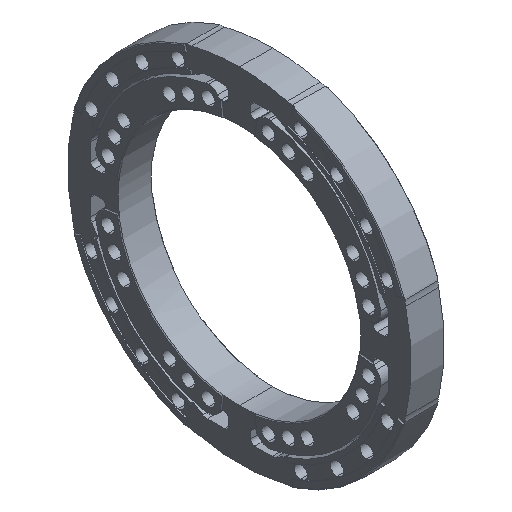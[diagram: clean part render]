
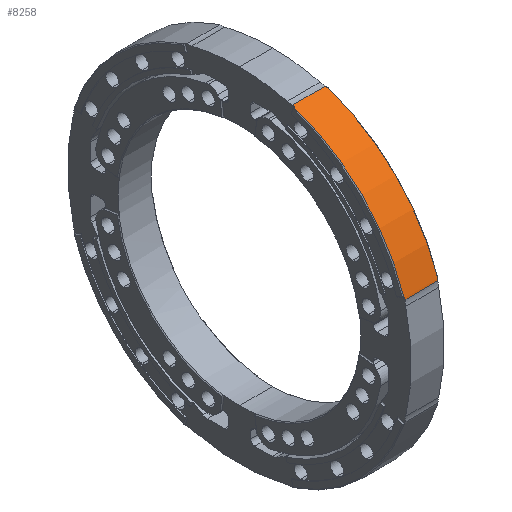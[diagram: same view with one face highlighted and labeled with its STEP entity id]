
A CAD part, isometric view. The second image highlights one B-rep face of the part: STEP entity #8258.
In plain terms, the highlighted cylindrical face has radius 187.325 mm (diameter 374.65 mm), a partial arc.
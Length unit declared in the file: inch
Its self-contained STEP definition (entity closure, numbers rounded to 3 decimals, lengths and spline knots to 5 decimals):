
#307 = CARTESIAN_POINT ( 'NONE',  ( -0.7, -7.00804, 2.2974 ) ) ;
#523 = CARTESIAN_POINT ( 'NONE',  ( 0.7, -7.00804, 2.2974 ) ) ;
#667 = CARTESIAN_POINT ( 'NONE',  ( 0.70164, -7.00415, 2.30922 ) ) ;
#749 = CARTESIAN_POINT ( 'NONE',  ( 0.715, -6.99751, 2.32925 ) ) ;
#903 = CARTESIAN_POINT ( 'NONE',  ( 0.7, -7.0234, 2.25 ) ) ;
#1099 = DIRECTION ( 'NONE',  ( -1., 0., 0. ) ) ;
#1283 = CARTESIAN_POINT ( 'NONE',  ( 0.715, -2.32925, 6.99751 ) ) ;
#1554 = EDGE_CURVE ( 'NONE', #8118, #13894, #6892, .T. ) ;
#1581 = CIRCLE ( 'NONE', #14776, 7.375 ) ;
#2385 = CARTESIAN_POINT ( 'NONE',  ( 0.7, -2.2974, 7.00804 ) ) ;
#2481 = VECTOR ( 'NONE', #1099, 39.37008 ) ;
#2597 = ORIENTED_EDGE ( 'NONE', *, *, #7944, .T. ) ;
#2689 = ORIENTED_EDGE ( 'NONE', *, *, #10921, .T. ) ;
#2785 = EDGE_CURVE ( 'NONE', #11471, #11132, #5587, .T. ) ;
#2928 = DIRECTION ( 'NONE',  ( 1., 0., 0. ) ) ;
#3061 = DIRECTION ( 'NONE',  ( 0., 0., 1. ) ) ;
#3122 = VERTEX_POINT ( 'NONE', #10372 ) ;
#3143 = CARTESIAN_POINT ( 'NONE',  ( 0.025, -7.0234, 2.25 ) ) ;
#3445 = ORIENTED_EDGE ( 'NONE', *, *, #8289, .T. ) ;
#3465 = EDGE_CURVE ( 'NONE', #3122, #8118, #1581, .T. ) ;
#3475 = AXIS2_PLACEMENT_3D ( 'NONE', #12006, #14854, #10658 ) ;
#3751 = CARTESIAN_POINT ( 'NONE',  ( 0., 0., 0. ) ) ;
#3754 = ORIENTED_EDGE ( 'NONE', *, *, #12761, .F. ) ;
#3902 = AXIS2_PLACEMENT_3D ( 'NONE', #12433, #4804, #14378 ) ;
#4221 = CARTESIAN_POINT ( 'NONE',  ( 0.7, -2.2974, 7.00804 ) ) ;
#4395 = CARTESIAN_POINT ( 'NONE',  ( -0.70033, -2.30339, 7.00607 ) ) ;
#4773 = CARTESIAN_POINT ( 'NONE',  ( -0.715, -6.99751, 2.32925 ) ) ;
#4804 = DIRECTION ( 'NONE',  ( 1., 0., 0. ) ) ;
#4946 = B_SPLINE_CURVE_WITH_KNOTS ( 'NONE', 3,
 ( #5644, #10933, #4395, #9845, #7145, #6887, #8169, #5727 ),
 .UNSPECIFIED., .F., .F.,
 ( 4, 2, 2, 4 ),
 ( 0., 0.00024, 0.00048, 0.00096 ),
 .UNSPECIFIED. ) ;
#5165 = CARTESIAN_POINT ( 'NONE',  ( 0.71263, -2.32724, 6.99818 ) ) ;
#5193 = AXIS2_PLACEMENT_3D ( 'NONE', #3751, #6522, #5274 ) ;
#5274 = DIRECTION ( 'NONE',  ( 0., 0., 1. ) ) ;
#5428 = VERTEX_POINT ( 'NONE', #13286 ) ;
#5587 = CIRCLE ( 'NONE', #17600, 7.375 ) ;
#5644 = CARTESIAN_POINT ( 'NONE',  ( -0.7, -2.2974, 7.00804 ) ) ;
#5727 = CARTESIAN_POINT ( 'NONE',  ( -0.715, -2.32925, 6.99751 ) ) ;
#6146 = CARTESIAN_POINT ( 'NONE',  ( 0.70648, -7.00049, 2.3203 ) ) ;
#6252 = CARTESIAN_POINT ( 'NONE',  ( -0.7, -2.2974, 7.00804 ) ) ;
#6297 = CARTESIAN_POINT ( 'NONE',  ( -0.7, 0., 0. ) ) ;
#6339 = FACE_OUTER_BOUND ( 'NONE', #15761, .T. ) ;
#6507 = CARTESIAN_POINT ( 'NONE',  ( 0.70136, -2.30941, 7.00409 ) ) ;
#6522 = DIRECTION ( 'NONE',  ( -1., 0., 0. ) ) ;
#6634 = CARTESIAN_POINT ( 'NONE',  ( -0.7, -2.25, 7.0234 ) ) ;
#6749 = CARTESIAN_POINT ( 'NONE',  ( -0.715, -2.32925, 6.99751 ) ) ;
#6768 = CARTESIAN_POINT ( 'NONE',  ( 0.7, -2.30345, 7.00605 ) ) ;
#6887 = CARTESIAN_POINT ( 'NONE',  ( -0.70648, -2.3203, 7.00049 ) ) ;
#6892 = LINE ( 'NONE', #3143, #9812 ) ;
#7033 = CARTESIAN_POINT ( 'NONE',  ( -0.7, -7.00605, 2.30345 ) ) ;
#7070 = VERTEX_POINT ( 'NONE', #6252 ) ;
#7120 = CARTESIAN_POINT ( 'NONE',  ( -0.71263, -6.99818, 2.32724 ) ) ;
#7145 = CARTESIAN_POINT ( 'NONE',  ( -0.70263, -2.31211, 7.0032 ) ) ;
#7207 = CARTESIAN_POINT ( 'NONE',  ( -0.70682, -7.00051, 2.32022 ) ) ;
#7277 = ORIENTED_EDGE ( 'NONE', *, *, #3465, .T. ) ;
#7439 = EDGE_CURVE ( 'NONE', #10444, #7070, #14885, .T. ) ;
#7490 = CARTESIAN_POINT ( 'NONE',  ( 0.7, -7.00704, 2.30043 ) ) ;
#7577 = CARTESIAN_POINT ( 'NONE',  ( 0.71026, -6.99885, 2.32523 ) ) ;
#7944 = EDGE_CURVE ( 'NONE', #7070, #11132, #4946, .T. ) ;
#8118 = VERTEX_POINT ( 'NONE', #16927 ) ;
#8169 = CARTESIAN_POINT ( 'NONE',  ( -0.71026, -2.32523, 6.99885 ) ) ;
#8258 = ADVANCED_FACE ( 'NONE', ( #6339 ), #10742, .T. ) ;
#8289 = EDGE_CURVE ( 'NONE', #8321, #5428, #8926, .T. ) ;
#8321 = VERTEX_POINT ( 'NONE', #13422 ) ;
#8573 = CARTESIAN_POINT ( 'NONE',  ( -0.70521, -7.00139, 2.31759 ) ) ;
#8594 = ORIENTED_EDGE ( 'NONE', *, *, #13350, .T. ) ;
#8610 = DIRECTION ( 'NONE',  ( 1., 0., 0. ) ) ;
#8926 = CIRCLE ( 'NONE', #3475, 7.375 ) ;
#9203 = CARTESIAN_POINT ( 'NONE',  ( 0.70521, -2.31759, 7.00139 ) ) ;
#9441 = B_SPLINE_CURVE_WITH_KNOTS ( 'NONE', 3,
 ( #11620, #7490, #17351, #667, #10363, #6146, #7577, #749 ),
 .UNSPECIFIED., .F., .F.,
 ( 4, 2, 2, 4 ),
 ( 0., 0.00024, 0.00048, 0.00096 ),
 .UNSPECIFIED. ) ;
#9812 = VECTOR ( 'NONE', #8610, 39.37008 ) ;
#9845 = CARTESIAN_POINT ( 'NONE',  ( -0.70164, -2.30922, 7.00415 ) ) ;
#9965 = ORIENTED_EDGE ( 'NONE', *, *, #2785, .F. ) ;
#10065 = DIRECTION ( 'NONE',  ( -1., 0., 0. ) ) ;
#10363 = CARTESIAN_POINT ( 'NONE',  ( 0.70263, -7.0032, 2.31211 ) ) ;
#10372 = CARTESIAN_POINT ( 'NONE',  ( -0.7, -7.00804, 2.2974 ) ) ;
#10444 = VERTEX_POINT ( 'NONE', #6634 ) ;
#10556 = CARTESIAN_POINT ( 'NONE',  ( 0.70682, -2.32022, 7.00051 ) ) ;
#10658 = DIRECTION ( 'NONE',  ( 0., 0., 1. ) ) ;
#10742 = CYLINDRICAL_SURFACE ( 'NONE', #5193, 7.375 ) ;
#10801 = B_SPLINE_CURVE_WITH_KNOTS ( 'NONE', 3,
 ( #12602, #7120, #15106, #7207, #8573, #12345, #7033, #307 ),
 .UNSPECIFIED., .F., .F.,
 ( 4, 2, 2, 4 ),
 ( 0., 0.00024, 0.00048, 0.00096 ),
 .UNSPECIFIED. ) ;
#10870 = CARTESIAN_POINT ( 'NONE',  ( 0.7, 0., 0. ) ) ;
#10921 = EDGE_CURVE ( 'NONE', #11471, #3122, #10801, .T. ) ;
#10933 = CARTESIAN_POINT ( 'NONE',  ( -0.7, -2.30043, 7.00704 ) ) ;
#11132 = VERTEX_POINT ( 'NONE', #6749 ) ;
#11198 = EDGE_CURVE ( 'NONE', #16974, #10444, #13395, .T. ) ;
#11218 = CARTESIAN_POINT ( 'NONE',  ( 0.7, -2.25, 7.0234 ) ) ;
#11222 = ORIENTED_EDGE ( 'NONE', *, *, #16313, .T. ) ;
#11471 = VERTEX_POINT ( 'NONE', #4773 ) ;
#11596 = ORIENTED_EDGE ( 'NONE', *, *, #1554, .T. ) ;
#11620 = CARTESIAN_POINT ( 'NONE',  ( 0.7, -7.00804, 2.2974 ) ) ;
#11773 = DIRECTION ( 'NONE',  ( 1., 0., 0. ) ) ;
#11936 = VERTEX_POINT ( 'NONE', #523 ) ;
#12006 = CARTESIAN_POINT ( 'NONE',  ( 0.715, 0., 0. ) ) ;
#12345 = CARTESIAN_POINT ( 'NONE',  ( -0.70136, -7.00409, 2.30941 ) ) ;
#12433 = CARTESIAN_POINT ( 'NONE',  ( 0.7, 0., 0. ) ) ;
#12602 = CARTESIAN_POINT ( 'NONE',  ( -0.715, -6.99751, 2.32925 ) ) ;
#12761 = EDGE_CURVE ( 'NONE', #11936, #13894, #16498, .T. ) ;
#12836 = DIRECTION ( 'NONE',  ( 0., 0., 1. ) ) ;
#13286 = CARTESIAN_POINT ( 'NONE',  ( 0.715, -2.32925, 6.99751 ) ) ;
#13350 = EDGE_CURVE ( 'NONE', #5428, #14419, #16908, .T. ) ;
#13395 = LINE ( 'NONE', #17338, #2481 ) ;
#13422 = CARTESIAN_POINT ( 'NONE',  ( 0.715, -6.99751, 2.32925 ) ) ;
#13679 = DIRECTION ( 'NONE',  ( 0., 0., 1. ) ) ;
#13894 = VERTEX_POINT ( 'NONE', #903 ) ;
#14378 = DIRECTION ( 'NONE',  ( 0., 1., 0. ) ) ;
#14419 = VERTEX_POINT ( 'NONE', #4221 ) ;
#14776 = AXIS2_PLACEMENT_3D ( 'NONE', #16808, #2928, #13679 ) ;
#14854 = DIRECTION ( 'NONE',  ( -1., 0., 0. ) ) ;
#14885 = CIRCLE ( 'NONE', #17167, 7.375 ) ;
#14965 = EDGE_CURVE ( 'NONE', #16974, #14419, #15032, .T. ) ;
#14991 = ORIENTED_EDGE ( 'NONE', *, *, #7439, .T. ) ;
#15032 = CIRCLE ( 'NONE', #3902, 7.375 ) ;
#15106 = CARTESIAN_POINT ( 'NONE',  ( -0.71052, -6.99892, 2.32503 ) ) ;
#15417 = ORIENTED_EDGE ( 'NONE', *, *, #11198, .T. ) ;
#15694 = CARTESIAN_POINT ( 'NONE',  ( -0.715, 0., 0. ) ) ;
#15761 = EDGE_LOOP ( 'NONE', ( #9965, #2689, #7277, #11596, #3754, #11222, #3445, #8594, #17215, #15417, #14991, #2597 ) ) ;
#15871 = DIRECTION ( 'NONE',  ( 0., 1., 0. ) ) ;
#16313 = EDGE_CURVE ( 'NONE', #11936, #8321, #9441, .T. ) ;
#16326 = DIRECTION ( 'NONE',  ( 1., 0., 0. ) ) ;
#16498 = CIRCLE ( 'NONE', #17657, 7.375 ) ;
#16808 = CARTESIAN_POINT ( 'NONE',  ( -0.7, 0., 0. ) ) ;
#16908 = B_SPLINE_CURVE_WITH_KNOTS ( 'NONE', 3,
 ( #1283, #5165, #17613, #10556, #9203, #6507, #6768, #2385 ),
 .UNSPECIFIED., .F., .F.,
 ( 4, 2, 2, 4 ),
 ( 0., 0.00024, 0.00048, 0.00096 ),
 .UNSPECIFIED. ) ;
#16927 = CARTESIAN_POINT ( 'NONE',  ( -0.7, -7.0234, 2.25 ) ) ;
#16974 = VERTEX_POINT ( 'NONE', #11218 ) ;
#17167 = AXIS2_PLACEMENT_3D ( 'NONE', #6297, #11773, #15871 ) ;
#17215 = ORIENTED_EDGE ( 'NONE', *, *, #14965, .F. ) ;
#17338 = CARTESIAN_POINT ( 'NONE',  ( 0.0075, -2.25, 7.0234 ) ) ;
#17351 = CARTESIAN_POINT ( 'NONE',  ( 0.70033, -7.00607, 2.30339 ) ) ;
#17600 = AXIS2_PLACEMENT_3D ( 'NONE', #15694, #10065, #12836 ) ;
#17613 = CARTESIAN_POINT ( 'NONE',  ( 0.71052, -2.32503, 6.99892 ) ) ;
#17657 = AXIS2_PLACEMENT_3D ( 'NONE', #10870, #16326, #3061 ) ;
